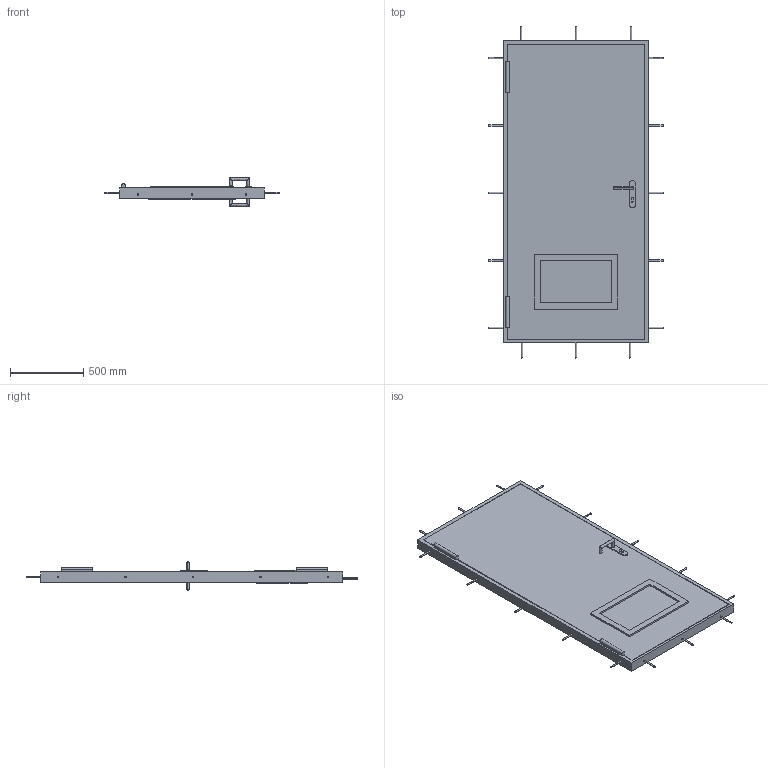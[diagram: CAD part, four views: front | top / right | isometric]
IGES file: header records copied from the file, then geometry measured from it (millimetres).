
Start section:  PTC IGES file: 52266295.igs
Global section: file name: 52266295.igs; native system: Creo Parametric by PTC Inc.; preprocessor: 2022162; author: ka; organization: Unknown; date: 20240626.133103; units: millimetre
Bounding box: 1190 x 2267 x 194.4 mm (x, y, z)
Surface area: 5237588.3 mm2 (no closed solid volume)
Topology: 0 solids, 0 shells, 136 faces, 632 edges, 632 vertices
Faces by surface type: bspline 82, revolution 54
